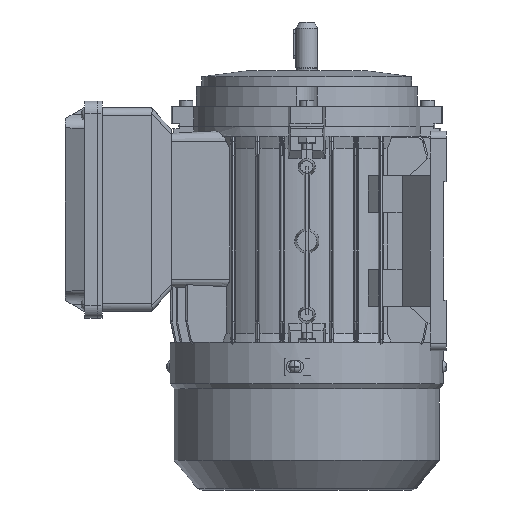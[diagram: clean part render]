
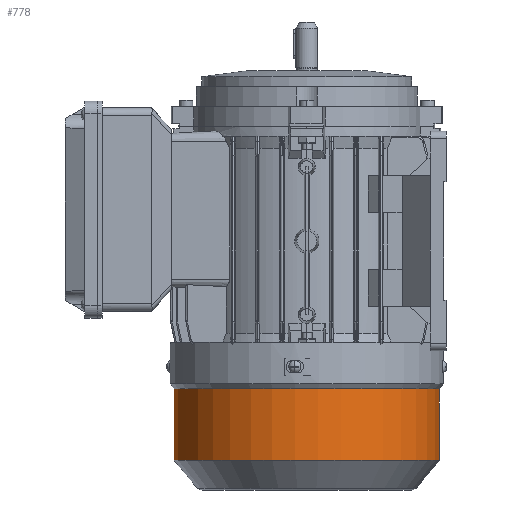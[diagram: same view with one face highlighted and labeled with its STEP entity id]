
A CAD part, left-side view. The second image highlights one B-rep face of the part: STEP entity #778.
In plain terms, the highlighted cylindrical face has radius 54 mm (diameter 108 mm), a partial arc.
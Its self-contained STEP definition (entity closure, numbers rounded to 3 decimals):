
#778 = ADVANCED_FACE ( 'NONE', ( #63487 ), #63485, .T. ) ;
#6096 = ORIENTED_EDGE ( 'NONE', *, *, #7837, .F. ) ;
#6098 = ORIENTED_EDGE ( 'NONE', *, *, #8276, .T. ) ;
#6100 = ORIENTED_EDGE ( 'NONE', *, *, #7839, .T. ) ;
#6102 = ORIENTED_EDGE ( 'NONE', *, *, #8275, .F. ) ;
#7099 = EDGE_LOOP ( 'NONE', ( #6096, #6098, #6100, #6102 ) ) ;
#7837 = EDGE_CURVE ( 'NONE', #60307, #60085, #10733, .T. ) ;
#7839 = EDGE_CURVE ( 'NONE', #60082, #60248, #10736, .T. ) ;
#8275 = EDGE_CURVE ( 'NONE', #60085, #60248, #16956, .T. ) ;
#8276 = EDGE_CURVE ( 'NONE', #60307, #60082, #16957, .T. ) ;
#10733 = LINE ( 'NONE', #14332, #10739 ) ;
#10736 = LINE ( 'NONE', #14341, #10742 ) ;
#10739 = VECTOR ( 'NONE', #14340, 1000. ) ;
#10742 = VECTOR ( 'NONE', #14338, 1000. ) ;
#11633 = AXIS2_PLACEMENT_3D ( 'NONE', #16215, #16216, #16217 ) ;
#11634 = AXIS2_PLACEMENT_3D ( 'NONE', #16218, #16219, #16220 ) ;
#14332 = CARTESIAN_POINT ( 'NONE',  ( 0., 66., -54. ) ) ;
#14338 = DIRECTION ( 'NONE',  ( 0., 1., 0. ) ) ;
#14340 = DIRECTION ( 'NONE',  ( 0., 1., 0. ) ) ;
#14341 = CARTESIAN_POINT ( 'NONE',  ( 0., 66., 54. ) ) ;
#16215 = CARTESIAN_POINT ( 'NONE',  ( 0., 6.828, 0. ) ) ;
#16216 = DIRECTION ( 'NONE',  ( 0., 1., 0. ) ) ;
#16217 = DIRECTION ( 'NONE',  ( 0., 0., 1. ) ) ;
#16218 = CARTESIAN_POINT ( 'NONE',  ( 0., -22.172, 0. ) ) ;
#16219 = DIRECTION ( 'NONE',  ( 0., 1., 0. ) ) ;
#16220 = DIRECTION ( 'NONE',  ( 0., 0., 1. ) ) ;
#16956 = CIRCLE ( 'NONE', #11633, 54. ) ;
#16957 = CIRCLE ( 'NONE', #11634, 54. ) ;
#44408 = CARTESIAN_POINT ( 'NONE',  ( 0., -22.172, 54. ) ) ;
#44411 = CARTESIAN_POINT ( 'NONE',  ( 0., 6.828, -54. ) ) ;
#44574 = CARTESIAN_POINT ( 'NONE',  ( 0., 6.828, 54. ) ) ;
#44633 = CARTESIAN_POINT ( 'NONE',  ( 0., -22.172, -54. ) ) ;
#60082 = VERTEX_POINT ( 'NONE', #44408 ) ;
#60085 = VERTEX_POINT ( 'NONE', #44411 ) ;
#60248 = VERTEX_POINT ( 'NONE', #44574 ) ;
#60307 = VERTEX_POINT ( 'NONE', #44633 ) ;
#61719 = AXIS2_PLACEMENT_3D ( 'NONE', #62499, #62497, #62495 ) ;
#62495 = DIRECTION ( 'NONE',  ( 0., 0., 1. ) ) ;
#62497 = DIRECTION ( 'NONE',  ( 0., 1., 0. ) ) ;
#62499 = CARTESIAN_POINT ( 'NONE',  ( 0., 66., 0. ) ) ;
#63485 = CYLINDRICAL_SURFACE ( 'NONE', #61719, 54. ) ;
#63487 = FACE_OUTER_BOUND ( 'NONE', #7099, .T. ) ;
